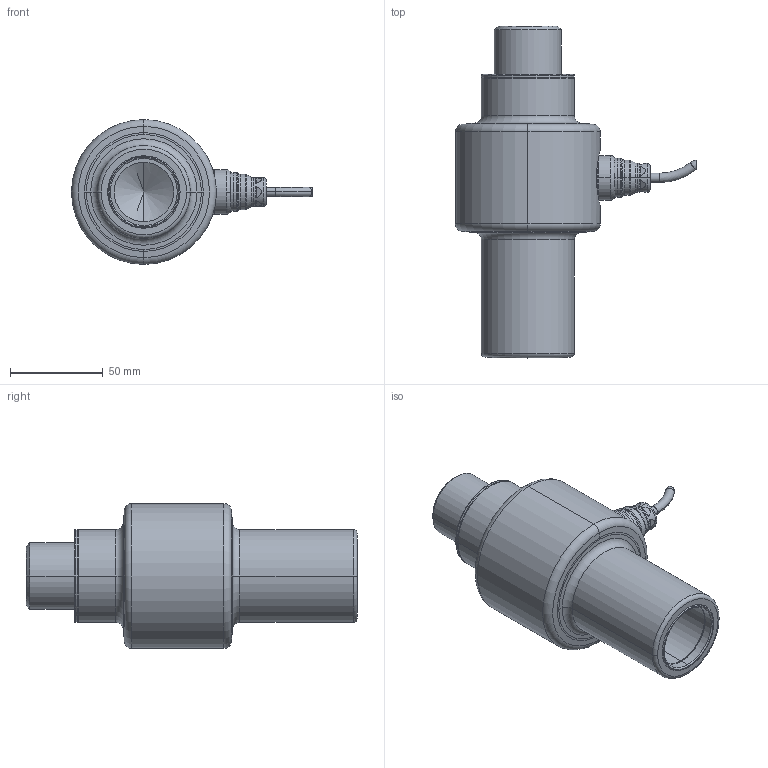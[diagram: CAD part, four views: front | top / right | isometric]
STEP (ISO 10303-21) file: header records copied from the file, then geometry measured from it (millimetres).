
FILE_DESCRIPTION((''),'1');
FILE_NAME('LFLA_3A_M36_20000_kg.step','2024-07-02T08:31:41',(''),(''),'','','');
FILE_SCHEMA(('AUTOMOTIVE_DESIGN { 1 0 10303 214 1 1 1 1 }'));
Length unit declared in the file: metre
Products named in the file (10): LFLA part 01; LFLA body 01; LFLA cable 01; LFLA cable gland 01; LFLA cable gland 02; LFLA part 03; LFLA connector 01; LFLA O-ring 01; LFLA O-ring 02; LFLA 3A_M36_20000_kg
Assembly tree (9 placements, depth 3):
  LFLA 3A_M36_20000_kg
    LFLA part 01
      LFLA body 01
      LFLA cable 01
      LFLA cable gland 01
      LFLA cable gland 02
      LFLA part 03
      LFLA connector 01
      LFLA O-ring 01
      LFLA O-ring 02
Bounding box: 129.85 x 178.75 x 78 mm (x, y, z)
Volume: 446588.8 mm3; surface area: 81239.6 mm2
Topology: 8 solids, 8 shells, 176 faces, 346 edges, 201 vertices
Faces by surface type: cylinder 72, torus 54, plane 32, cone 18
Entity records: 5184 total; most frequent: CARTESIAN_POINT 1095, DIRECTION 952, ORIENTED_EDGE 688, AXIS2_PLACEMENT_3D 431, EDGE_CURVE 344, CIRCLE 238, EDGE_LOOP 205, VERTEX_POINT 201
